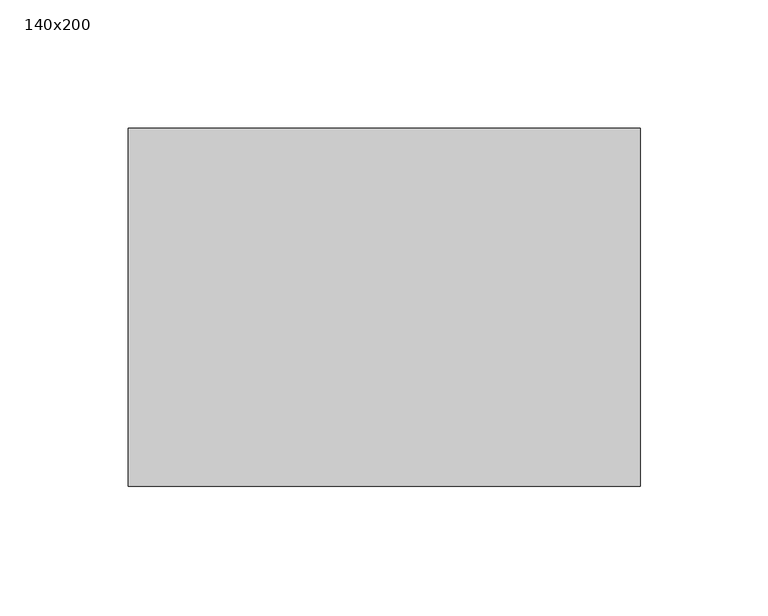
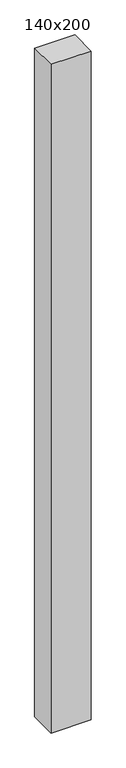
"""IFC4 building model written with IfcOpenShell, lengths in millimetres: column geometry, Søyle Tre Limtre : 140x200."""

from ifc_helpers import new_model, si_unit, frame, origin, place, context, project, spatial, polyline, outline, extrude, source, transform, mapped, element, save


def column_140x200_737acb0f(model_context):
    return source(origin(), model_context, "Body", "SweptSolid", [
        extrude(outline(polyline([(93.5290859, -72.3143992), (-106.4709141, -72.3143992), (-106.4709141, 67.6856008), (93.5290859, 67.6856008), (93.5290859, -72.3143992)])), frame((0.0, 0.0, 2500.0), z_axis=(0.0, 0.0, 1.0), x_axis=(1.0, 0.0, 0.0)), (0.0, 0.0, 1.0), 3520.0),
    ])


if __name__ == "__main__":
    model = new_model("IFC4")
    model_context = context("Model", 3, world=origin())
    ifc_project = project(units=[si_unit("LENGTHUNIT", "METRE", prefix="MILLI")], contexts=[model_context])
    site = spatial("IfcSite", under=ifc_project)
    building = spatial("IfcBuilding", under=site)
    placement = place(None, origin())
    column_140x200_shape = column_140x200_737acb0f(model_context)
    element("IfcColumn", 1, ObjectType="Søyle Tre Limtre : 140x200", at=placement, inside=building, context=model_context, shape_type="MappedRepresentation", body=[
        mapped(column_140x200_shape, transform((0.0, 0.0, 0.0), x_axis=(1.0, 0.0, 0.0), y_axis=(0.0, 1.0, 0.0), z_axis=(0.0, 0.0, 1.0))),
    ])
    save(model, "model.ifc")
